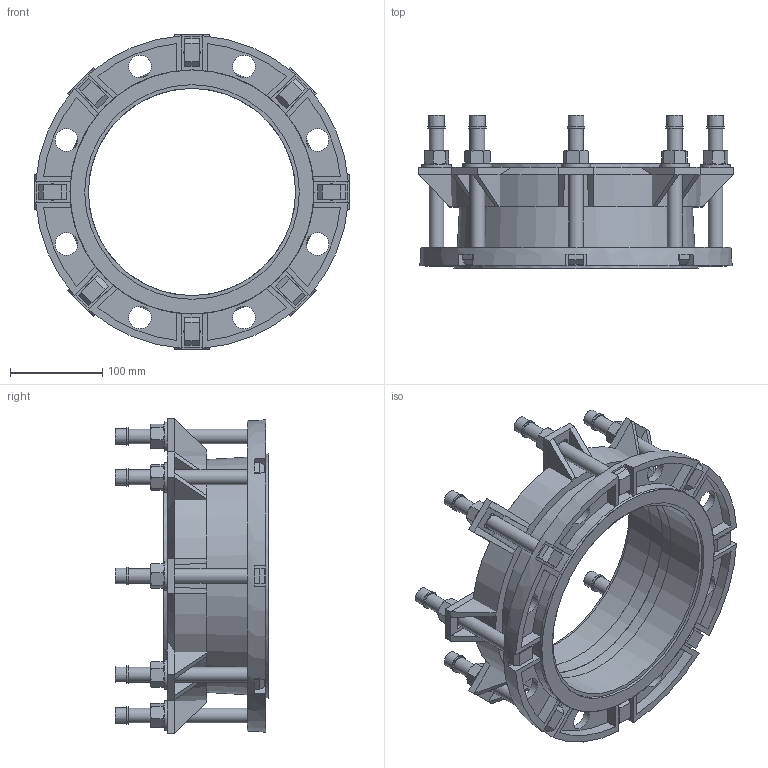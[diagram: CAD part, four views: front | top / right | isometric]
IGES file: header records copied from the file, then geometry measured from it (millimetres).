
Start section: SolidWorks IGES file using analytic representation for surfaces
Global section: file name: \\avksan2\techshare\PBM outline export from Enovia\O_623_10_DN200-225mm_X0XXXXX_REV01.igs; native system: SolidWorks 2019; preprocessor: SolidWorks 2019; author: pbm; date: 200417.110203; units: millimetre
Bounding box: 342 x 166.5 x 342 mm (x, y, z)
Surface area: 442033.6 mm2 (no closed solid volume)
Topology: 0 solids, 0 shells, 665 faces, 3216 edges, 3134 vertices
Faces by surface type: bspline 403, revolution 262
